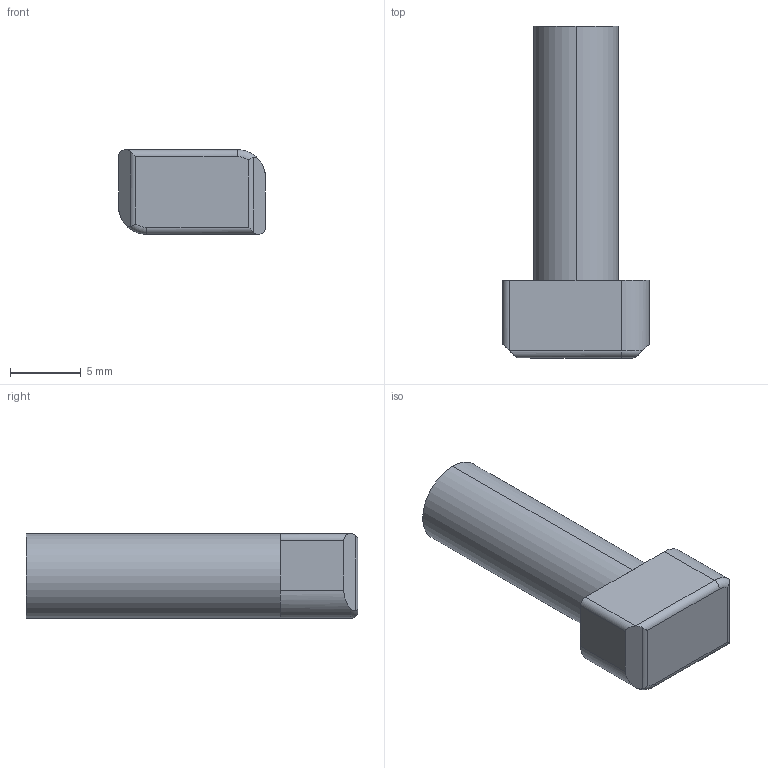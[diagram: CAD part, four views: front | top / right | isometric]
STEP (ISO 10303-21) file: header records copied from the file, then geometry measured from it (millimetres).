
FILE_DESCRIPTION (( 'STEP AP214' ), '1' );
FILE_NAME ('J3TB6.step', '2017-05-24T07:40:33', ( 'admin' ), ( '' ), 'SwSTEP 2.0', 'SolidWorks 2014', '' );
FILE_SCHEMA (( 'AUTOMOTIVE_DESIGN' ));
Length unit declared in the file: millimetre
Products named in the file (1): J3TB6
Bounding box: 10.4 x 23.5 x 6 mm (x, y, z)
Volume: 836.2 mm3; surface area: 618 mm2
Topology: 1 solids, 1 shells, 22 faces, 52 edges, 32 vertices
Faces by surface type: cylinder 10, plane 10, torus 2
Entity records: 668 total; most frequent: CARTESIAN_POINT 147, ORIENTED_EDGE 104, DIRECTION 100, EDGE_CURVE 52, AXIS2_PLACEMENT_3D 37, VERTEX_POINT 32, VECTOR 26, LINE 26
